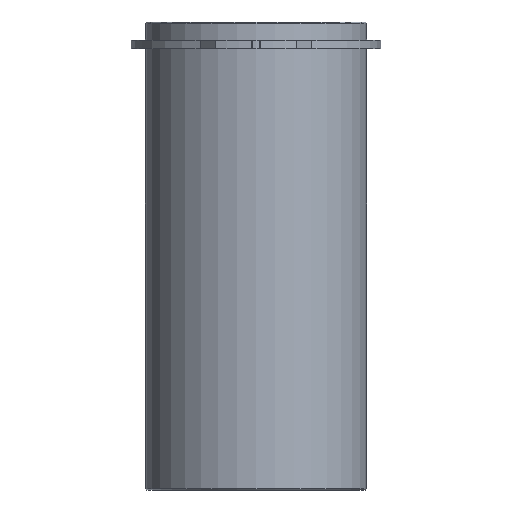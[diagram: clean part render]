
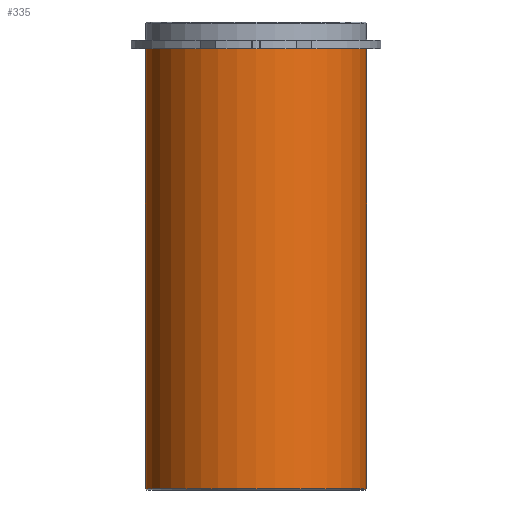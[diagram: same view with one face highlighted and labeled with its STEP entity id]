
A CAD part, front view. The second image highlights one B-rep face of the part: STEP entity #335.
In plain terms, the highlighted cylindrical face has radius 23.625 mm (diameter 47.25 mm), a partial arc.
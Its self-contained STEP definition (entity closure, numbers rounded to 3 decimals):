
#294=CARTESIAN_POINT('',(0.0,0.,-47.0));
#295=DIRECTION('',(0.0,0.,1.0));
#296=DIRECTION('',(1.0,0.0,0.0));
#297=AXIS2_PLACEMENT_3D('',#294,#295,#296);
#298=CYLINDRICAL_SURFACE('',#297,23.625);
#299=CARTESIAN_POINT('',(23.625,0.0,0.0));
#300=VERTEX_POINT('',#299);
#301=CARTESIAN_POINT('',(23.625,0.,-94.0));
#302=VERTEX_POINT('',#301);
#303=CARTESIAN_POINT('',(23.625,0.0,0.0));
#304=DIRECTION('',(0.0,0.0,-1.0));
#305=VECTOR('',#304,94.0);
#306=LINE('',#303,#305);
#307=EDGE_CURVE('',#300,#302,#306,.T.);
#308=ORIENTED_EDGE('',*,*,#307,.F.);
#309=CARTESIAN_POINT('',(-23.625,0.,0.0));
#310=VERTEX_POINT('',#309);
#311=CARTESIAN_POINT('',(0.0,0.0,0.0));
#312=DIRECTION('',(0.0,0.0,1.0));
#313=DIRECTION('',(1.0,0.0,0.0));
#314=AXIS2_PLACEMENT_3D('',#311,#312,#313);
#315=CIRCLE('',#314,23.625);
#316=EDGE_CURVE('',#310,#300,#315,.T.);
#317=ORIENTED_EDGE('',*,*,#316,.F.);
#318=CARTESIAN_POINT('',(-23.625,0.,-94.0));
#319=VERTEX_POINT('',#318);
#320=CARTESIAN_POINT('',(-23.625,0.,0.0));
#321=DIRECTION('',(0.0,0.0,-1.0));
#322=VECTOR('',#321,94.0);
#323=LINE('',#320,#322);
#324=EDGE_CURVE('',#310,#319,#323,.T.);
#325=ORIENTED_EDGE('',*,*,#324,.T.);
#326=CARTESIAN_POINT('',(0.0,0.,-94.0));
#327=DIRECTION('',(0.0,0.0,1.0));
#328=DIRECTION('',(1.0,0.0,0.0));
#329=AXIS2_PLACEMENT_3D('',#326,#327,#328);
#330=CIRCLE('',#329,23.625);
#331=EDGE_CURVE('',#319,#302,#330,.T.);
#332=ORIENTED_EDGE('',*,*,#331,.T.);
#333=EDGE_LOOP('',(#308,#317,#325,#332));
#334=FACE_OUTER_BOUND('',#333,.T.);
#335=ADVANCED_FACE('',(#334),#298,.T.);
